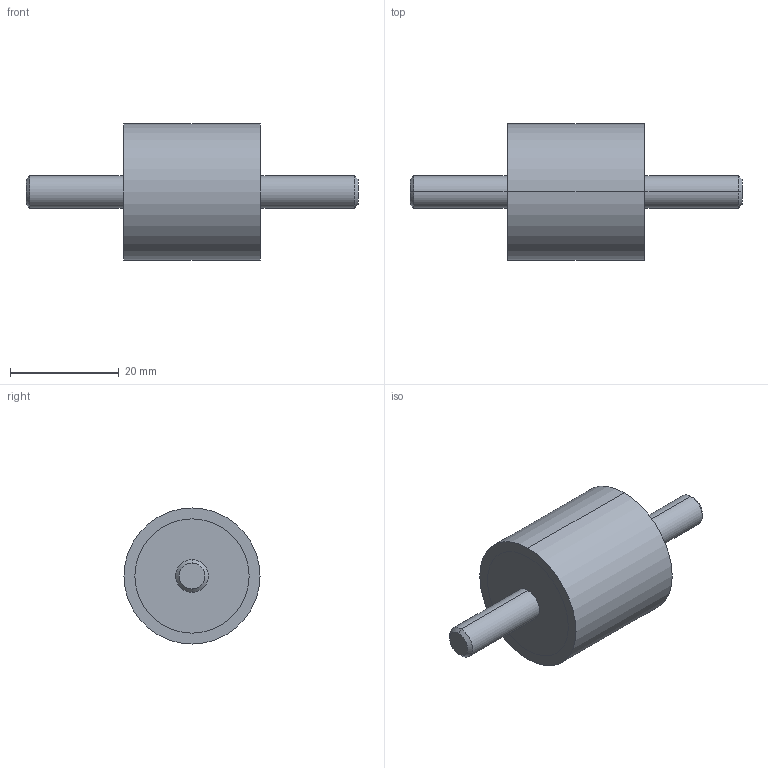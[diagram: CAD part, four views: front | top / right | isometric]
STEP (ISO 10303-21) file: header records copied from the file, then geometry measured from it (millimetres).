
FILE_DESCRIPTION (( 'STEP AP214' ), '1' );
FILE_NAME ('351-25-25-M6-SS-55.step', '2025-07-23T09:53:06', ( '' ), ( '' ), 'SwSTEP 2.0', 'SolidWorks 2022', '' );
FILE_SCHEMA (( 'AUTOMOTIVE_DESIGN' ));
Length unit declared in the file: millimetre
Products named in the file (1): 351-25-25-M6-SS-55
Bounding box: 61 x 25 x 25 mm (x, y, z)
Volume: 13276 mm3; surface area: 3610.1 mm2
Topology: 1 solids, 1 shells, 20 faces, 38 edges, 24 vertices
Faces by surface type: cylinder 10, plane 6, cone 4
Entity records: 636 total; most frequent: DIRECTION 104, CARTESIAN_POINT 83, ORIENTED_EDGE 76, AXIS2_PLACEMENT_3D 45, EDGE_CURVE 38, EDGE_LOOP 24, CIRCLE 24, VERTEX_POINT 24
